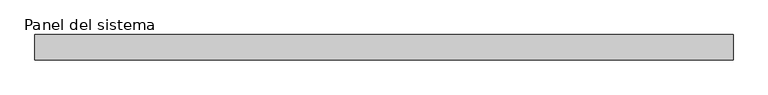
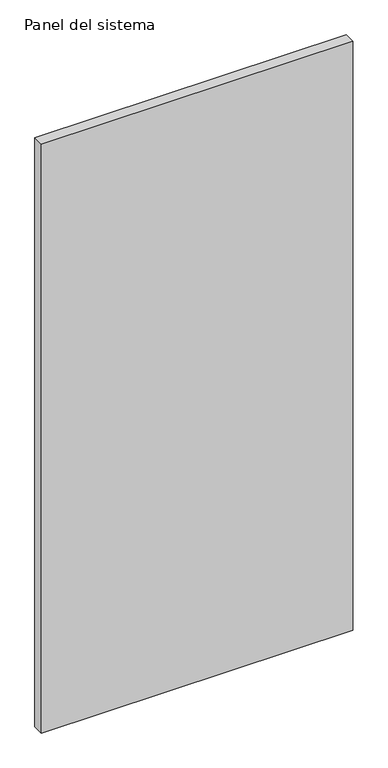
"""IFC4 building model written with IfcOpenShell, lengths in millimetres: plate geometry, Panel del sistema : Hiansa Panel - Fachada Panel SEMILISO Vert - 40mm."""

from ifc_helpers import new_model, si_unit, origin, origin_with_axes, place, context, project, spatial, polyline, outline, extrude, source, transform, mapped, element, save


def panel_del_sistema_924ae047(model_context):
    return source(origin(), model_context, "Body", "SweptSolid", [
        extrude(outline(polyline([(550.0000002, -40.0), (-550.0000002, -40.0), (-550.0000002, 0.0), (550.0000002, 0.0), (550.0000002, -40.0)])), origin_with_axes(), (0.0, 0.0, 1.0), 2200.0),
    ])


if __name__ == "__main__":
    model = new_model("IFC4")
    model_context = context("Model", 3, world=origin())
    ifc_project = project(units=[si_unit("LENGTHUNIT", "METRE", prefix="MILLI")], contexts=[model_context])
    site = spatial("IfcSite", under=ifc_project)
    building = spatial("IfcBuilding", under=site)
    placement = place(None, origin())
    panel_del_sistema_shape = panel_del_sistema_924ae047(model_context)
    element("IfcPlate", 1, ObjectType="Panel del sistema : Hiansa Panel - Fachada Panel SEMILISO Vert - 40mm", at=placement, inside=building, context=model_context, shape_type="MappedRepresentation", body=[
        mapped(panel_del_sistema_shape, transform((0.0, 0.0, 0.0), x_axis=(1.0, 0.0, 0.0), y_axis=(0.0, 1.0, 0.0), z_axis=(0.0, 0.0, 1.0))),
    ])
    save(model, "model.ifc")
